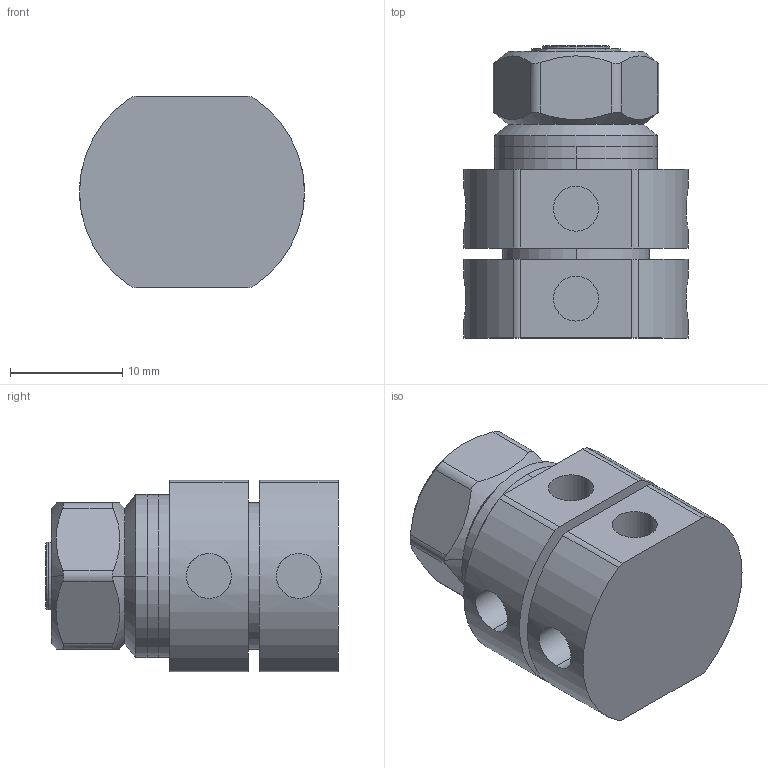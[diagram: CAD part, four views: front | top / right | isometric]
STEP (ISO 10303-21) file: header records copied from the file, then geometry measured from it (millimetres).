
FILE_DESCRIPTION (( 'STEP AP203' ), '1' );
FILE_NAME ('XG11-054.STEP', '2025-06-17T09:16:55', ( '微软用户' ), ( '微软中国' ), 'SwSTEP 2.0', 'SolidWorks 2024', '' );
FILE_SCHEMA (( 'CONFIG_CONTROL_DESIGN' ));
Length unit declared in the file: millimetre
Products named in the file (1): XG11-054
Bounding box: 20 x 26 x 17 mm (x, y, z)
Volume: 5345.3 mm3; surface area: 3809.9 mm2
Topology: 5 solids, 5 shells, 94 faces, 208 edges, 136 vertices
Faces by surface type: cylinder 48, plane 36, cone 10
Entity records: 3033 total; most frequent: CARTESIAN_POINT 859, DIRECTION 450, ORIENTED_EDGE 416, EDGE_CURVE 208, AXIS2_PLACEMENT_3D 183, VERTEX_POINT 136, EDGE_LOOP 106, FACE_OUTER_BOUND 94
